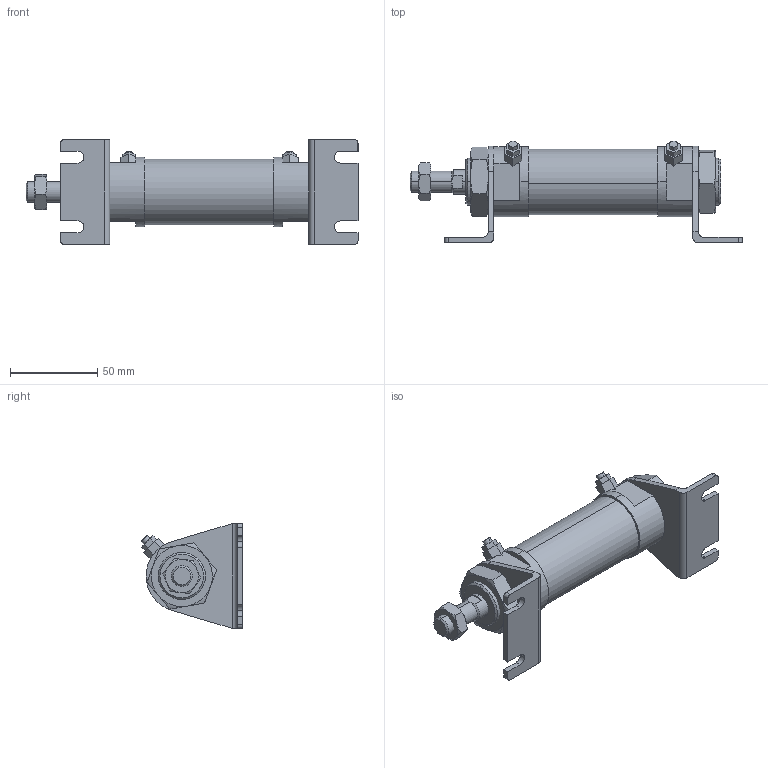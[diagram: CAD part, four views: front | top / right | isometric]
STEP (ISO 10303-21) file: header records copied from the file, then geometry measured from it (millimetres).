
FILE_DESCRIPTION (( 'STEP AP203' ), '1' );
FILE_NAME ('JG2-32-25-L.STEP', '2016-04-19T00:50:25', ( '' ), ( '' ), 'SwSTEP 2.0', 'SolidWorks 2014', '' );
FILE_SCHEMA (( 'CONFIG_CONTROL_DESIGN' ));
Length unit declared in the file: millimetre
Products named in the file (7): JG2-32A; JG2-32B; M12x1.25-7mm; M27x2-10mm; J#2-32-L; 32-25; JG2-32-25-L
Assembly tree (8 placements, depth 2):
  JG2-32-25-L
    JG2-32B
    32-25
    JG2-32A
    M12x1.25-7mm
    J#2-32-L  x2
    M27x2-10mm  x2
Bounding box: 190.2 x 58.33 x 60 mm (x, y, z)
Volume: 184258.3 mm3; surface area: 49071.3 mm2
Topology: 8 solids, 8 shells, 205 faces, 492 edges, 308 vertices
Faces by surface type: plane 105, cylinder 52, torus 36, cone 12
Entity records: 5718 total; most frequent: CARTESIAN_POINT 1358, DIRECTION 755, ORIENTED_EDGE 734, EDGE_CURVE 367, AXIS2_PLACEMENT_3D 285, VERTEX_POINT 232, LINE 185, VECTOR 185
